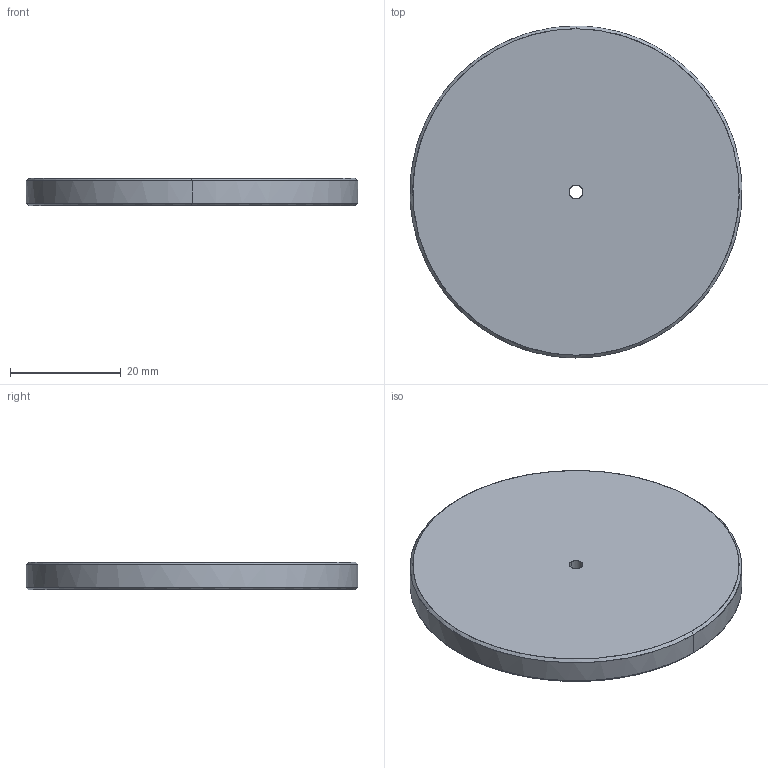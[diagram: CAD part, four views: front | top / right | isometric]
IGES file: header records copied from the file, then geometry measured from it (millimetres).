
Global section: file name: E:\UnigraphicsGraphicData\MISUMI_PRESS-PARTS\IGES\3d_fwss-d60-v2.5-5.0_00543_r00.igs; native system: NX V5.0; preprocessor: UGS NX IGES V5.0; author: MISUMI; date: 20110105.160701; units: millimetre
Bounding box: 59.92 x 60 x 5 mm (x, y, z)
Surface area: 6516.8 mm2 (no closed solid volume)
Topology: 0 solids, 0 shells, 10 faces, 80 edges, 80 vertices
Faces by surface type: bspline 10
